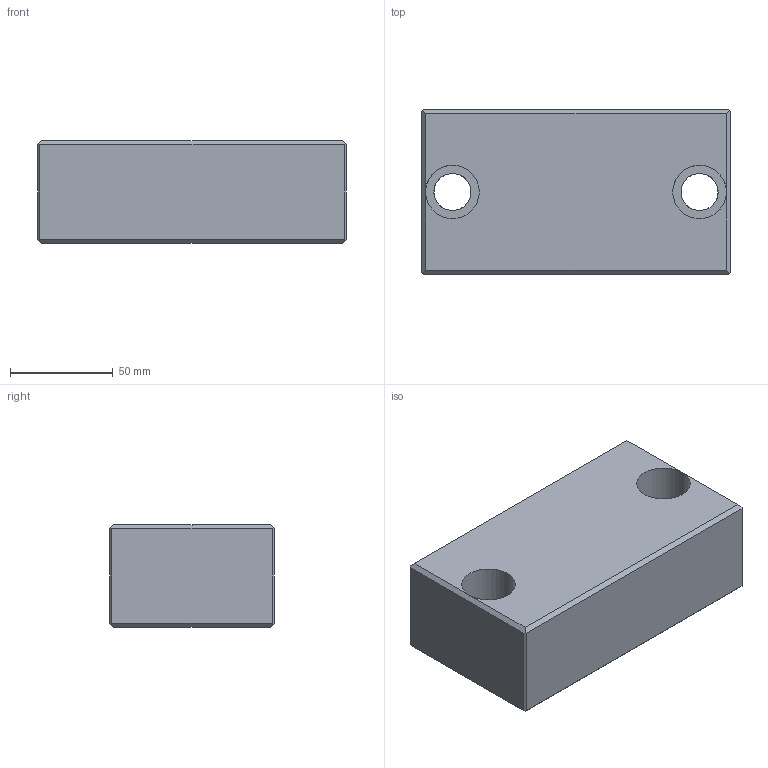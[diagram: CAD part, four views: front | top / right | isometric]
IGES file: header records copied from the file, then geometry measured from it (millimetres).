
Start section: START RECORD GO HERE.
Global section: file name: 759+150+80+50+18.igs; native system: DASSAULT SYSTEMES CATIA V5 R20 - www.3ds.com; preprocessor: CATIA Version 5 Release 20 ; author: Utente; organization: NB04-ASUS; date: 20201028.201514; units: millimetre
Bounding box: 150 x 80 x 50 mm (x, y, z)
Surface area: 52043.8 mm2 (no closed solid volume)
Topology: 0 solids, 0 shells, 28 faces, 148 edges, 146 vertices
Faces by surface type: plane 20, revolution 8
